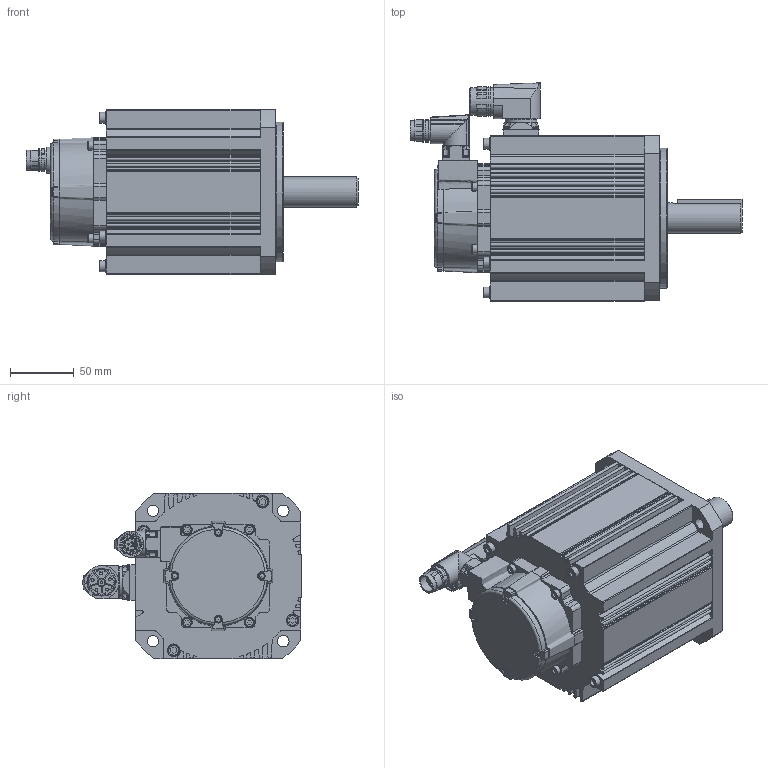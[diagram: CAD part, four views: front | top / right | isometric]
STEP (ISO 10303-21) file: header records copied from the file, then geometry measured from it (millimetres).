
FILE_DESCRIPTION(/* description */ ('STEP AP214'),/* implementation_level */ '2;1');
FILE_NAME(/* name */ 'MDMF304L1G9M',/* time_stamp */ '2025-06-02T12:31:20+02:00',/* author */ ('License CC BY-ND 4.0'),/* organization */ ('CADENAS'),/* preprocessor_version */ 'ST-DEVELOPER v19.3',/* originating_system */ 'PARTsolutions',/* authorisation */ ' ');
FILE_SCHEMA (('AUTOMOTIVE_DESIGN {1 0 10303 214 3 1 1}'));
Length unit declared in the file: millimetre
Products named in the file (4): MDMF304L1G9M; MDMF304L1G9M-motor; BGC106N00001200000; AGC047N0000150A000_EC
Assembly tree (3 placements, depth 2):
  MDMF304L1G9M
    MDMF304L1G9M-motor
    BGC106N00001200000
    AGC047N0000150A000_EC
Bounding box: 261.25 x 171.8 x 130.6 mm (x, y, z)
Volume: 2326488.1 mm3; surface area: 160988.7 mm2
Topology: 3 solids, 3 shells, 924 faces, 2527 edges, 1682 vertices
Faces by surface type: plane 473, cylinder 358, cone 41, torus 23, bspline 17, sphere 12
Full cylindrical faces by diameter (mm): 1.25 x12, 2.232 x6, 2.459 x1, 2.8 x1, 5.5 x5, 6 x4, 7 x4, 8 x4, 8.5 x4, 9 x4, 10 x4, 13.4 x1, 15.54 x1, 16 x1, 16.2 x1, 19.7 x1, 21.6 x1, 24 x1, 24.1 x1, 34 x1, 110 x1
Entity records: 29387 total; most frequent: CARTESIAN_POINT 5981, DIRECTION 4971, ORIENTED_EDGE 4750, EDGE_CURVE 2375, AXIS2_PLACEMENT_3D 1840, VERTEX_POINT 1635, LINE 1291, VECTOR 1291
